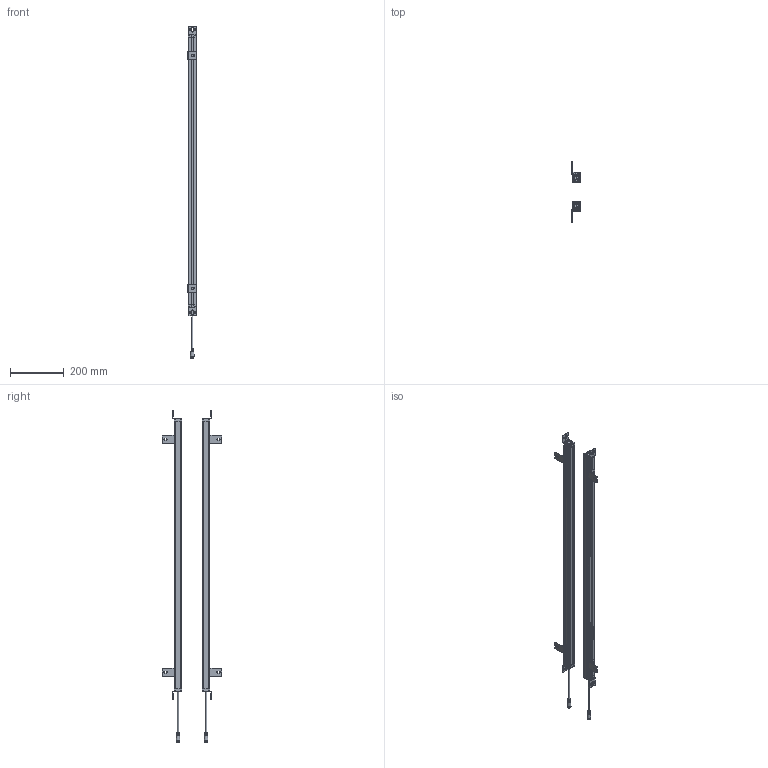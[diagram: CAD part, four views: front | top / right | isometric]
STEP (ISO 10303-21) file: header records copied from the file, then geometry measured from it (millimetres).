
FILE_DESCRIPTION(/* description */ (''),/* implementation_level */ '2;1');
FILE_NAME(/* name */ '5020（29x30）.stp',/* time_stamp */ '2023-04-28T14:36:10+08:00',/* author */ (''),/* organization */ (''),/* preprocessor_version */ 'ST-DEVELOPER v16.7',/* originating_system */ 'SIEMENS PLM Software NX 12.0',/* authorisation */ '');
FILE_SCHEMA (('AUTOMOTIVE_DESIGN { 1 0 10303 214 3 1 1 1 }'));
Products named in the file (1): 5020（29x30）_stp
Bounding box: 32.03 x 223.99 x 1241 mm (x, y, z)
Volume: 643299.6 mm3; surface area: 663801.5 mm2
Topology: 34 solids, 34 shells, 1610 faces, 4267 edges, 2771 vertices
Faces by surface type: plane 750, cylinder 648, bspline 88, sphere 36, cone 36, torus 32, extrusion 20
Full cylindrical faces by diameter (mm): 1.533 x6, 4.4 x4, 9 x2, 12.5 x2
Entity records: 56427 total; most frequent: CARTESIAN_POINT 16064, DIRECTION 8330, ORIENTED_EDGE 8324, EDGE_CURVE 4162, AXIS2_PLACEMENT_3D 2918, VERTEX_POINT 2696, VECTOR 2494, LINE 2474
